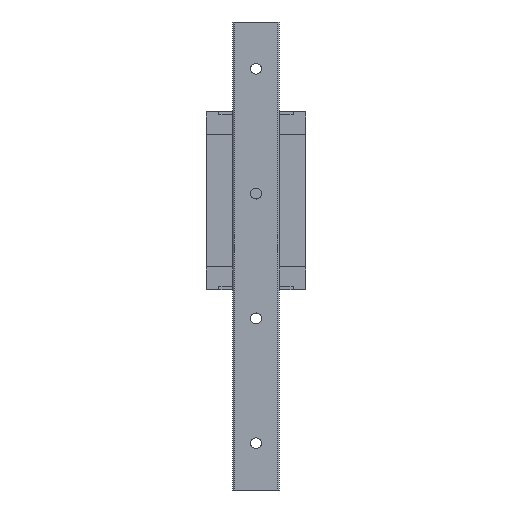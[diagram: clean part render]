
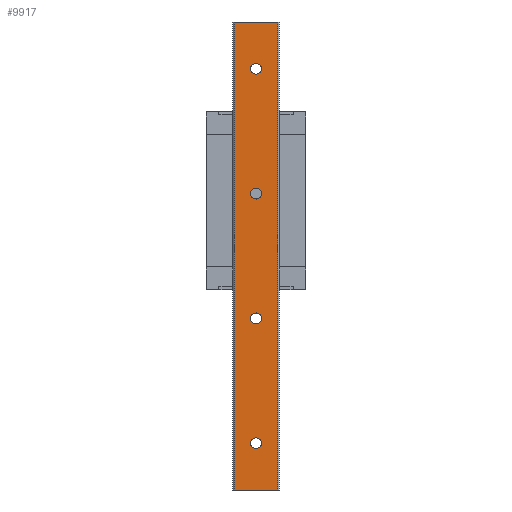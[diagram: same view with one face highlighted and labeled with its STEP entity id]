
A CAD part, front view. The second image highlights one B-rep face of the part: STEP entity #9917.
In plain terms, the highlighted planar face has unit normal (0, -1, 0).
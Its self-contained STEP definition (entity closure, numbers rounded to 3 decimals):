
#299 = ORIENTED_EDGE ( 'NONE', *, *, #10767, .T. ) ;
#409 = VECTOR ( 'NONE', #12223, 1000. ) ;
#858 = DIRECTION ( 'NONE',  ( 0., 0., 1. ) ) ;
#954 = DIRECTION ( 'NONE',  ( 0., 1., 0. ) ) ;
#973 = ORIENTED_EDGE ( 'NONE', *, *, #11570, .T. ) ;
#985 = DIRECTION ( 'NONE',  ( 0., 1., 0. ) ) ;
#1001 = DIRECTION ( 'NONE',  ( 0., 0., 1. ) ) ;
#1170 = DIRECTION ( 'NONE',  ( 0., 1., 0. ) ) ;
#1371 = CIRCLE ( 'NONE', #7452, 1.75 ) ;
#1567 = AXIS2_PLACEMENT_3D ( 'NONE', #12063, #11227, #2226 ) ;
#1758 = EDGE_CURVE ( 'NONE', #6855, #3273, #6166, .T. ) ;
#1892 = DIRECTION ( 'NONE',  ( 0., 0., -1. ) ) ;
#1926 = ORIENTED_EDGE ( 'NONE', *, *, #12251, .F. ) ;
#2212 = CARTESIAN_POINT ( 'NONE',  ( -6.9, 0., 0. ) ) ;
#2226 = DIRECTION ( 'NONE',  ( 0., 0., 1. ) ) ;
#2340 = FACE_BOUND ( 'NONE', #2374, .T. ) ;
#2374 = EDGE_LOOP ( 'NONE', ( #6310, #11680 ) ) ;
#2404 = ORIENTED_EDGE ( 'NONE', *, *, #3974, .F. ) ;
#2525 = AXIS2_PLACEMENT_3D ( 'NONE', #4821, #2895, #1001 ) ;
#2895 = DIRECTION ( 'NONE',  ( 0., 1., 0. ) ) ;
#2941 = DIRECTION ( 'NONE',  ( 0., 0., 1. ) ) ;
#2992 = PLANE ( 'NONE',  #11858 ) ;
#3029 = LINE ( 'NONE', #3656, #8946 ) ;
#3273 = VERTEX_POINT ( 'NONE', #7254 ) ;
#3368 = CIRCLE ( 'NONE', #5815, 1.75 ) ;
#3389 = LINE ( 'NONE', #4655, #5435 ) ;
#3404 = CARTESIAN_POINT ( 'NONE',  ( 0., 0., 16.75 ) ) ;
#3656 = CARTESIAN_POINT ( 'NONE',  ( -6.9, 0., 0. ) ) ;
#3828 = CIRCLE ( 'NONE', #12197, 1.75 ) ;
#3974 = EDGE_CURVE ( 'NONE', #7024, #12432, #3389, .T. ) ;
#4042 = EDGE_LOOP ( 'NONE', ( #5809, #1926, #2404, #973 ) ) ;
#4148 = DIRECTION ( 'NONE',  ( 0., 0., 1. ) ) ;
#4179 = EDGE_LOOP ( 'NONE', ( #12542, #7180 ) ) ;
#4196 = CARTESIAN_POINT ( 'NONE',  ( 0., 0., 13.25 ) ) ;
#4201 = VERTEX_POINT ( 'NONE', #8720 ) ;
#4655 = CARTESIAN_POINT ( 'NONE',  ( -6.9, 0., 150. ) ) ;
#4663 = VERTEX_POINT ( 'NONE', #5573 ) ;
#4670 = FACE_BOUND ( 'NONE', #4179, .T. ) ;
#4821 = CARTESIAN_POINT ( 'NONE',  ( 0., 0., 15. ) ) ;
#4856 = CARTESIAN_POINT ( 'NONE',  ( 0., 0., 95. ) ) ;
#4996 = CARTESIAN_POINT ( 'NONE',  ( -6.9, 0., 150. ) ) ;
#5022 = VERTEX_POINT ( 'NONE', #10879 ) ;
#5037 = DIRECTION ( 'NONE',  ( 0., 1., 0. ) ) ;
#5076 = DIRECTION ( 'NONE',  ( 0., 0., 1. ) ) ;
#5291 = FACE_OUTER_BOUND ( 'NONE', #4042, .T. ) ;
#5435 = VECTOR ( 'NONE', #7577, 1000. ) ;
#5573 = CARTESIAN_POINT ( 'NONE',  ( 0., 0., 53.25 ) ) ;
#5612 = VERTEX_POINT ( 'NONE', #3404 ) ;
#5796 = CARTESIAN_POINT ( 'NONE',  ( 6.9, 0., 150. ) ) ;
#5809 = ORIENTED_EDGE ( 'NONE', *, *, #11838, .T. ) ;
#5815 = AXIS2_PLACEMENT_3D ( 'NONE', #9779, #6919, #858 ) ;
#5903 = DIRECTION ( 'NONE',  ( 0., 1., 0. ) ) ;
#6035 = ORIENTED_EDGE ( 'NONE', *, *, #7747, .T. ) ;
#6046 = CIRCLE ( 'NONE', #2525, 1.75 ) ;
#6087 = EDGE_LOOP ( 'NONE', ( #6035, #11069 ) ) ;
#6166 = CIRCLE ( 'NONE', #9941, 1.75 ) ;
#6306 = EDGE_CURVE ( 'NONE', #4201, #12178, #12272, .T. ) ;
#6310 = ORIENTED_EDGE ( 'NONE', *, *, #10620, .T. ) ;
#6524 = DIRECTION ( 'NONE',  ( 0., 0., 1. ) ) ;
#6569 = CARTESIAN_POINT ( 'NONE',  ( 0., 0., 135. ) ) ;
#6645 = DIRECTION ( 'NONE',  ( 1., 0., 0. ) ) ;
#6855 = VERTEX_POINT ( 'NONE', #8255 ) ;
#6919 = DIRECTION ( 'NONE',  ( 0., 1., 0. ) ) ;
#7024 = VERTEX_POINT ( 'NONE', #10298 ) ;
#7180 = ORIENTED_EDGE ( 'NONE', *, *, #11318, .T. ) ;
#7254 = CARTESIAN_POINT ( 'NONE',  ( 0., 0., 93.25 ) ) ;
#7452 = AXIS2_PLACEMENT_3D ( 'NONE', #10994, #5037, #5076 ) ;
#7577 = DIRECTION ( 'NONE',  ( 1., 0., 0. ) ) ;
#7747 = EDGE_CURVE ( 'NONE', #5612, #11565, #6046, .T. ) ;
#7878 = EDGE_CURVE ( 'NONE', #4663, #11232, #1371, .T. ) ;
#7946 = VERTEX_POINT ( 'NONE', #2212 ) ;
#8255 = CARTESIAN_POINT ( 'NONE',  ( 0., 0., 96.75 ) ) ;
#8450 = CARTESIAN_POINT ( 'NONE',  ( 0., 0., 133.25 ) ) ;
#8720 = CARTESIAN_POINT ( 'NONE',  ( 0., 0., 136.75 ) ) ;
#8946 = VECTOR ( 'NONE', #6645, 1000. ) ;
#8999 = CARTESIAN_POINT ( 'NONE',  ( 6.9, 0., 150. ) ) ;
#9431 = LINE ( 'NONE', #10260, #409 ) ;
#9528 = AXIS2_PLACEMENT_3D ( 'NONE', #6569, #10392, #6524 ) ;
#9574 = VECTOR ( 'NONE', #1892, 1000. ) ;
#9779 = CARTESIAN_POINT ( 'NONE',  ( 0., 0., 55. ) ) ;
#9812 = CARTESIAN_POINT ( 'NONE',  ( 0., 0., 15. ) ) ;
#9856 = DIRECTION ( 'NONE',  ( 0., 0., 1. ) ) ;
#9861 = DIRECTION ( 'NONE',  ( 0., 0., 1. ) ) ;
#9917 = ADVANCED_FACE ( 'NONE', ( #2340, #11646, #5291, #4670, #12263 ), #2992, .F. ) ;
#9941 = AXIS2_PLACEMENT_3D ( 'NONE', #4856, #5903, #9861 ) ;
#10126 = CARTESIAN_POINT ( 'NONE',  ( 0., 0., 135. ) ) ;
#10160 = AXIS2_PLACEMENT_3D ( 'NONE', #9812, #985, #9856 ) ;
#10260 = CARTESIAN_POINT ( 'NONE',  ( -6.9, 0., 150. ) ) ;
#10298 = CARTESIAN_POINT ( 'NONE',  ( -6.9, 0., 150. ) ) ;
#10392 = DIRECTION ( 'NONE',  ( 0., 1., 0. ) ) ;
#10620 = EDGE_CURVE ( 'NONE', #11232, #4663, #3368, .T. ) ;
#10767 = EDGE_CURVE ( 'NONE', #12178, #4201, #3828, .T. ) ;
#10879 = CARTESIAN_POINT ( 'NONE',  ( 6.9, 0., 0. ) ) ;
#10967 = ORIENTED_EDGE ( 'NONE', *, *, #6306, .T. ) ;
#10994 = CARTESIAN_POINT ( 'NONE',  ( 0., 0., 55. ) ) ;
#11069 = ORIENTED_EDGE ( 'NONE', *, *, #11922, .T. ) ;
#11227 = DIRECTION ( 'NONE',  ( 0., 1., 0. ) ) ;
#11232 = VERTEX_POINT ( 'NONE', #11893 ) ;
#11275 = LINE ( 'NONE', #5796, #9574 ) ;
#11318 = EDGE_CURVE ( 'NONE', #3273, #6855, #11592, .T. ) ;
#11352 = EDGE_LOOP ( 'NONE', ( #10967, #299 ) ) ;
#11565 = VERTEX_POINT ( 'NONE', #4196 ) ;
#11570 = EDGE_CURVE ( 'NONE', #7024, #7946, #9431, .T. ) ;
#11592 = CIRCLE ( 'NONE', #1567, 1.75 ) ;
#11646 = FACE_BOUND ( 'NONE', #6087, .T. ) ;
#11680 = ORIENTED_EDGE ( 'NONE', *, *, #7878, .T. ) ;
#11838 = EDGE_CURVE ( 'NONE', #7946, #5022, #3029, .T. ) ;
#11858 = AXIS2_PLACEMENT_3D ( 'NONE', #4996, #954, #2941 ) ;
#11893 = CARTESIAN_POINT ( 'NONE',  ( 0., 0., 56.75 ) ) ;
#11922 = EDGE_CURVE ( 'NONE', #11565, #5612, #12344, .T. ) ;
#12063 = CARTESIAN_POINT ( 'NONE',  ( 0., 0., 95. ) ) ;
#12178 = VERTEX_POINT ( 'NONE', #8450 ) ;
#12197 = AXIS2_PLACEMENT_3D ( 'NONE', #10126, #1170, #4148 ) ;
#12223 = DIRECTION ( 'NONE',  ( 0., 0., -1. ) ) ;
#12251 = EDGE_CURVE ( 'NONE', #12432, #5022, #11275, .T. ) ;
#12263 = FACE_BOUND ( 'NONE', #11352, .T. ) ;
#12272 = CIRCLE ( 'NONE', #9528, 1.75 ) ;
#12344 = CIRCLE ( 'NONE', #10160, 1.75 ) ;
#12432 = VERTEX_POINT ( 'NONE', #8999 ) ;
#12542 = ORIENTED_EDGE ( 'NONE', *, *, #1758, .T. ) ;
